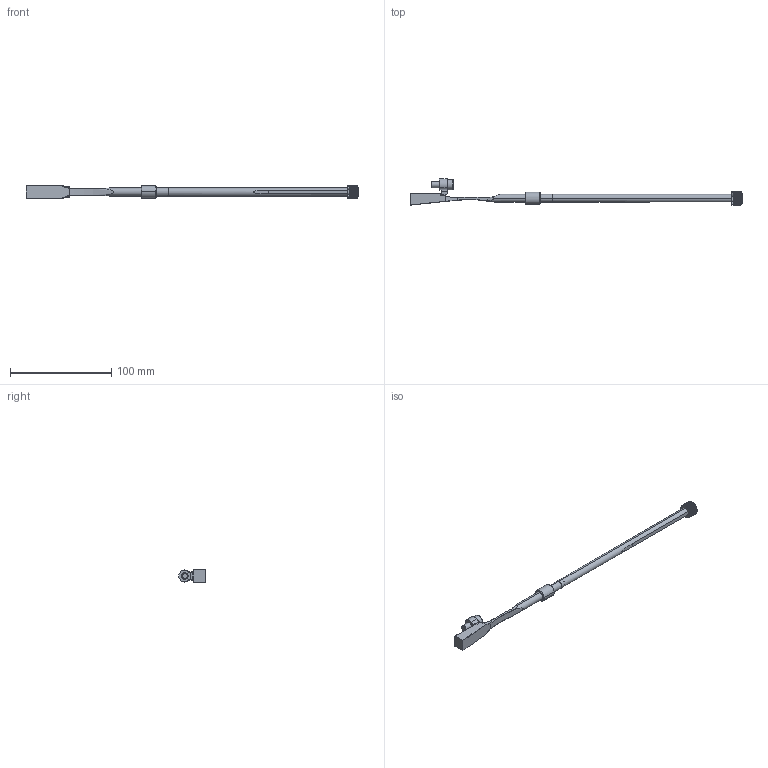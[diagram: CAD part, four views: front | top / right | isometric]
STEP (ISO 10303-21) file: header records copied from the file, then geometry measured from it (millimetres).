
FILE_DESCRIPTION (( 'STEP AP214' ), '1' );
FILE_NAME ('PX081230-325.STEP', '2020-02-10T10:01:03', ( '' ), ( '' ), 'SwSTEP 2.0', 'SolidWorks 2018', '' );
FILE_SCHEMA (( 'AUTOMOTIVE_DESIGN' ));
Length unit declared in the file: millimetre
Products named in the file (10): PX081230-325; 1DIN912616_DIN 912 M6 x 16 --- 16C; 9PX-TOPE; 9TP0810HX; JT ﾘ8X1,5; 8PX081230 Rosca Mecha cerrada; 9CS081215; 9PX081230-325_cerrada; 9AX080184 rectificado plano; 9TP0810HX-1
Assembly tree (9 placements, depth 3):
  PX081230-325
    9PX081230-325_cerrada
      9AX080184 rectificado plano
      8PX081230 Rosca Mecha cerrada
    9PX-TOPE
    9TP0810HX
      9TP0810HX-1
      JT ﾘ8X1,5
    1DIN912616_DIN 912 M6 x 16 --- 16C
    9CS081215
Bounding box: 328.5 x 26.4 x 13.79 mm (x, y, z)
Volume: 20568.9 mm3; surface area: 13393.8 mm2
Topology: 7 solids, 7 shells, 468 faces, 1267 edges, 812 vertices
Faces by surface type: plane 237, cylinder 155, cone 40, torus 24, bspline 8, sphere 4
Entity records: 16049 total; most frequent: CARTESIAN_POINT 4389, ORIENTED_EDGE 2518, DIRECTION 2153, EDGE_CURVE 1259, AXIS2_PLACEMENT_3D 848, VERTEX_POINT 812, EDGE_LOOP 483, FACE_OUTER_BOUND 468
